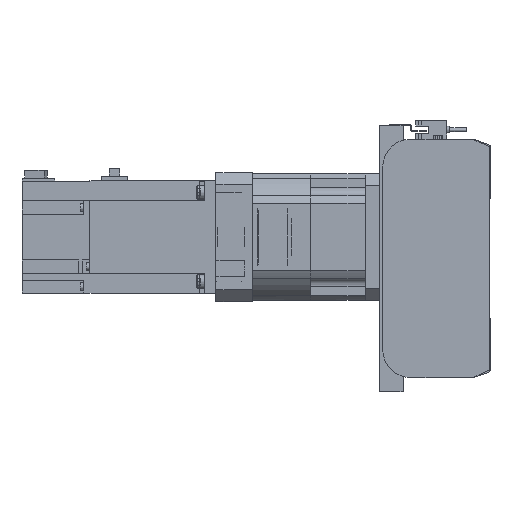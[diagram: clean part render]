
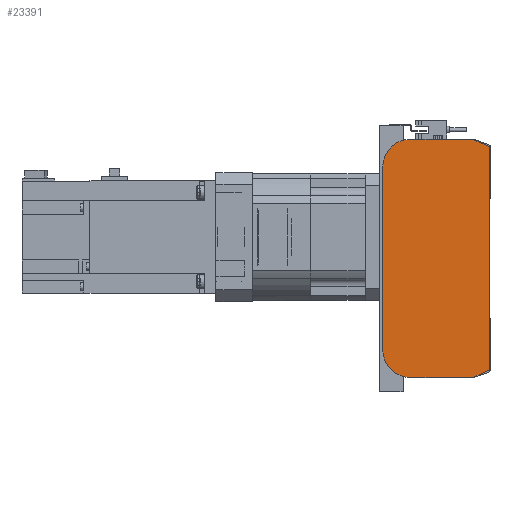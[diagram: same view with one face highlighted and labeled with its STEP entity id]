
A CAD part, left-side view. The second image highlights one B-rep face of the part: STEP entity #23391.
In plain terms, the highlighted planar face has unit normal (-1, 0, 0).
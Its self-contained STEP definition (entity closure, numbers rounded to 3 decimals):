
#1771=CIRCLE('',#25605,2.);
#1772=CIRCLE('',#25608,2.);
#1773=CIRCLE('',#25611,20.);
#1774=CIRCLE('',#25614,20.);
#6752=ORIENTED_EDGE('',*,*,#11123,.F.);
#6753=ORIENTED_EDGE('',*,*,#11201,.F.);
#6754=ORIENTED_EDGE('',*,*,#11199,.F.);
#6755=ORIENTED_EDGE('',*,*,#11197,.F.);
#6756=ORIENTED_EDGE('',*,*,#10910,.F.);
#6757=ORIENTED_EDGE('',*,*,#11196,.F.);
#6758=ORIENTED_EDGE('',*,*,#11194,.F.);
#6759=ORIENTED_EDGE('',*,*,#11192,.F.);
#6760=ORIENTED_EDGE('',*,*,#11190,.F.);
#6761=ORIENTED_EDGE('',*,*,#11188,.F.);
#10910=EDGE_CURVE('',#13464,#13465,#15454,.T.);
#11123=EDGE_CURVE('',#13536,#13537,#15568,.T.);
#11188=EDGE_CURVE('',#13537,#13578,#15613,.T.);
#11190=EDGE_CURVE('',#13578,#13579,#1771,.T.);
#11192=EDGE_CURVE('',#13579,#13580,#15616,.T.);
#11194=EDGE_CURVE('',#13580,#13581,#1772,.T.);
#11196=EDGE_CURVE('',#13581,#13464,#15619,.T.);
#11197=EDGE_CURVE('',#13465,#13582,#1773,.T.);
#11199=EDGE_CURVE('',#13582,#13583,#15621,.T.);
#11201=EDGE_CURVE('',#13583,#13536,#1774,.T.);
#13464=VERTEX_POINT('',#39344);
#13465=VERTEX_POINT('',#39346);
#13536=VERTEX_POINT('',#39682);
#13537=VERTEX_POINT('',#39684);
#13578=VERTEX_POINT('',#39814);
#13579=VERTEX_POINT('',#39818);
#13580=VERTEX_POINT('',#39822);
#13581=VERTEX_POINT('',#39826);
#13582=VERTEX_POINT('',#39832);
#13583=VERTEX_POINT('',#39836);
#15454=LINE('',#39345,#17423);
#15568=LINE('',#39683,#17537);
#15613=LINE('',#39813,#17582);
#15616=LINE('',#39821,#17585);
#15619=LINE('',#39829,#17588);
#15621=LINE('',#39835,#17590);
#17423=VECTOR('',#31035,1000.);
#17537=VECTOR('',#31453,1000.);
#17582=VECTOR('',#31586,1000.);
#17585=VECTOR('',#31595,1000.);
#17588=VECTOR('',#31604,1000.);
#17590=VECTOR('',#31612,1000.);
#19200=EDGE_LOOP('',(#6752,#6753,#6754,#6755,#6756,#6757,#6758,#6759,#6760,
#6761));
#21117=FACE_BOUND('',#19200,.T.);
#22214=PLANE('',#25616);
#23391=ADVANCED_FACE('',(#21117),#22214,.F.);
#25605=AXIS2_PLACEMENT_3D('',#39817,#31590,#31591);
#25608=AXIS2_PLACEMENT_3D('',#39825,#31599,#31600);
#25611=AXIS2_PLACEMENT_3D('',#39831,#31607,#31608);
#25614=AXIS2_PLACEMENT_3D('',#39839,#31616,#31617);
#25616=AXIS2_PLACEMENT_3D('',#39841,#31620,#31621);
#31035=DIRECTION('',(0.,1.,0.));
#31453=DIRECTION('',(0.,-1.,0.));
#31586=DIRECTION('',(0.,-0.913,-0.408));
#31590=DIRECTION('',(1.,0.,0.));
#31591=DIRECTION('',(0.,0.,-1.));
#31595=DIRECTION('',(0.,0.,-1.));
#31599=DIRECTION('',(1.,0.,0.));
#31600=DIRECTION('',(0.,0.,-1.));
#31604=DIRECTION('',(0.,0.913,-0.408));
#31607=DIRECTION('',(1.,0.,0.));
#31608=DIRECTION('',(0.,0.,-1.));
#31612=DIRECTION('',(0.,0.,1.));
#31616=DIRECTION('',(1.,0.,0.));
#31617=DIRECTION('',(0.,0.,-1.));
#31620=DIRECTION('',(1.,0.,0.));
#31621=DIRECTION('',(0.,0.,-1.));
#39344=CARTESIAN_POINT('',(0.,12.33,-85.));
#39345=CARTESIAN_POINT('',(0.,12.33,-85.));
#39346=CARTESIAN_POINT('',(0.,56.5,-85.));
#39682=CARTESIAN_POINT('',(0.,56.5,85.));
#39683=CARTESIAN_POINT('',(0.,56.5,85.));
#39684=CARTESIAN_POINT('',(0.,12.33,85.));
#39813=CARTESIAN_POINT('',(0.,12.33,85.));
#39814=CARTESIAN_POINT('',(0.,1.684,80.239));
#39817=CARTESIAN_POINT('',(0.,2.5,78.413));
#39818=CARTESIAN_POINT('',(0.,0.5,78.413));
#39821=CARTESIAN_POINT('',(0.,0.5,78.413));
#39822=CARTESIAN_POINT('',(0.,0.5,-78.413));
#39825=CARTESIAN_POINT('',(0.,2.5,-78.413));
#39826=CARTESIAN_POINT('',(0.,1.684,-80.239));
#39829=CARTESIAN_POINT('',(0.,1.684,-80.239));
#39831=CARTESIAN_POINT('',(0.,56.5,-65.));
#39832=CARTESIAN_POINT('',(0.,76.5,-65.));
#39835=CARTESIAN_POINT('',(0.,76.5,-65.));
#39836=CARTESIAN_POINT('',(0.,76.5,65.));
#39839=CARTESIAN_POINT('',(0.,56.5,65.));
#39841=CARTESIAN_POINT('',(0.,2.5,78.413));
